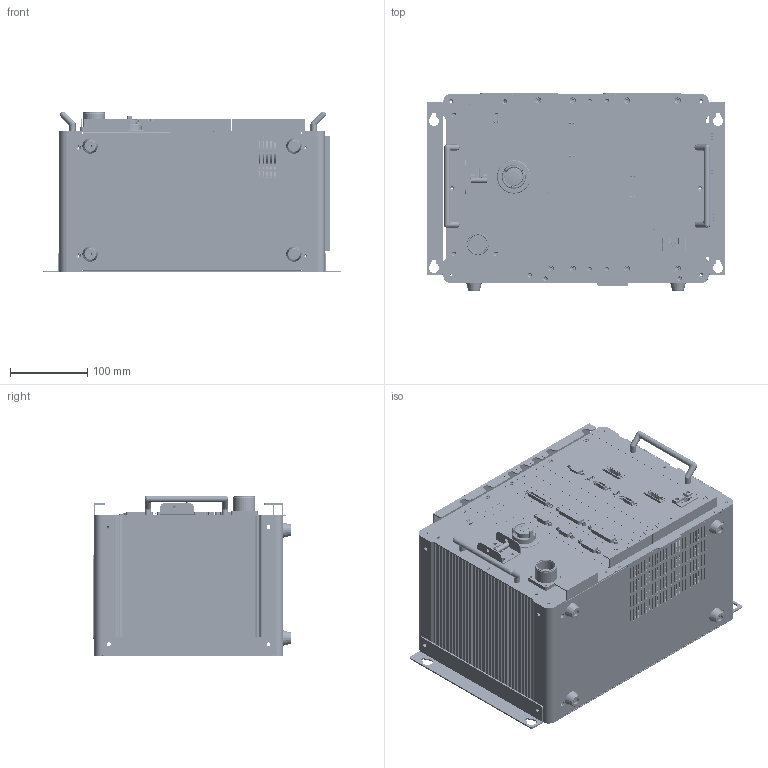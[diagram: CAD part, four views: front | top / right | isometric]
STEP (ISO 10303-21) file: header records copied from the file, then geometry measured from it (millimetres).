
FILE_DESCRIPTION((''),'2;1');
FILE_NAME('ASSY-6AXIS_ASM','2014-09-03T',('cwpark'),(''),'PRO/ENGINEER BY PARAMETRIC TECHNOLOGY CORPORATION, 2011490','PRO/ENGINEER BY PARAMETRIC TECHNOLOGY CORPORATION, 2011490','');
FILE_SCHEMA(('CONFIG_CONTROL_DESIGN'));
Products named in the file (70): COVER-SIDE-LEFT; PANEL-BACK-6CASE; COVER-BOTTOM-6AXIS; PCB-GUIDE-TOP-6AXIS; PCB-GUIDE-BOTTOM-6CASE; COVER-TOP; BKT-FAN-B-AXIS; FAN-60MM-6AXIS; PCB_6AXIS_BACKPLANE; CONNECTOR-A; CONNECTOR-C; CONNECTOR-D; CONNECTOR-B; ASSY-PCB_6AXIS_BACKPLANE_ASM; FOTT; FILTER_6AXIS_; FILTER_COVER_; ASSY_FILTER__ASM; COVER-SIDE-RIGHT_; PANEL-FRONT-RIGHT-6CASE_; HANDLE222_; ASSY-RIGHT_ASM; N1-COVER-PCB-SERVO-46AXIS; RCQ-SV-MAIN; SERVO-MAIN-CONNECTOR-1; SERVO-MAIN-CONNECTOR-4; SERVO-MAIN-CONNECTOR-2; SERVO-MAIN-CONNECTOR-3; ASSY-PCB-SERVO-MAIN_ASM; RCQ-SV_POWER; SERVO-POWER-CONNECTOR-1; SERVO-POWER-CONNECTOR-2; ASSY-PCB-SERVO-POWER_ASM; ASSY-PCBS-SERVO_ASM; NI-COVER-MAIN-46AXIS; PCB_MAIN_CON; CON-MAIN-; CON-MAIN-9PIN; CON-MAIN-15PIN; CON-PCB-MAIN-A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
Assembly tree (85 placements, depth 4):
  ASSY-6AXIS_ASM
    COVER-SIDE-LEFT
    PANEL-BACK-6CASE
    COVER-BOTTOM-6AXIS
    PCB-GUIDE-TOP-6AXIS
    PCB-GUIDE-BOTTOM-6CASE
    COVER-TOP
    BKT-FAN-B-AXIS  x2
    FAN-60MM-6AXIS
    ASSY-PCB_6AXIS_BACKPLANE_ASM
      PCB_6AXIS_BACKPLANE
      CONNECTOR-A
      CONNECTOR-C  x2
      CONNECTOR-D  x2
      CONNECTOR-B  x3
    FOTT  x4
    ASSY_FILTER__ASM
      FILTER_6AXIS_
      FILTER_COVER_
    ASSY-RIGHT_ASM
      COVER-SIDE-RIGHT_
      PANEL-FRONT-RIGHT-6CASE_
      HANDLE222_
    ASSY-PCBS-SERVO_ASM
      N1-COVER-PCB-SERVO-46AXIS
      ASSY-PCB-SERVO-MAIN_ASM
        RCQ-SV-MAIN
        SERVO-MAIN-CONNECTOR-1
        SERVO-MAIN-CONNECTOR-4  x2
        SERVO-MAIN-CONNECTOR-2
        SERVO-MAIN-CONNECTOR-3  x2
      ASSY-PCB-SERVO-POWER_ASM
        RCQ-SV_POWER
        SERVO-POWER-CONNECTOR-1  x2
        SERVO-POWER-CONNECTOR-2
    ASSY-NI-COVER-MAIN-46AXIS_ASM
      NI-COVER-MAIN-46AXIS
      PCB_MAIN_CON
      CON-MAIN-
      CON-MAIN-9PIN
      CON-MAIN-15PIN
      CON-PCB-MAIN-A
      WINDOW-SEGEMENT
    ASSY-N1-SYSTEM-IO-46AXIS_ASM
      N1-SYSTEM-IO-46AXIS
      110712_SYSTEM_IO
      CON-CC-22PIN
      CON-IO-25PIN  x2
      CON-IO-A
    N1-DUMMY_  x2
    REG_200W  x2
    POWER_20A_ASM
      POWER_20A_COVER
      SWITCH-EMERGENCY-6AXIS
      ASSY-PCB-EQUIP_BOARD_ASM
        PCB-EQUIP_BOARD
        SERVO-MAIN-CONNECTOR-1
        SERVO-POWER-CONNECTOR-2
        LED2
        20A_BRK
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Bounding box: 387.2 x 256.2 x 208.2 mm (x, y, z)
Volume: 1959251.9 mm3; surface area: 1894682.5 mm2
Topology: 140 solids, 140 shells, 11918 faces, 32183 edges, 21287 vertices
Faces by surface type: plane 6997, cylinder 4517, cone 170, torus 118, bspline 70, sphere 46
Entity records: 337099 total; most frequent: CARTESIAN_POINT 60937, DIRECTION 57552, ORIENTED_EDGE 56056, EDGE_CURVE 28028, AXIS2_PLACEMENT_3D 19214, VECTOR 19124, LINE 19124, VERTEX_POINT 18547
